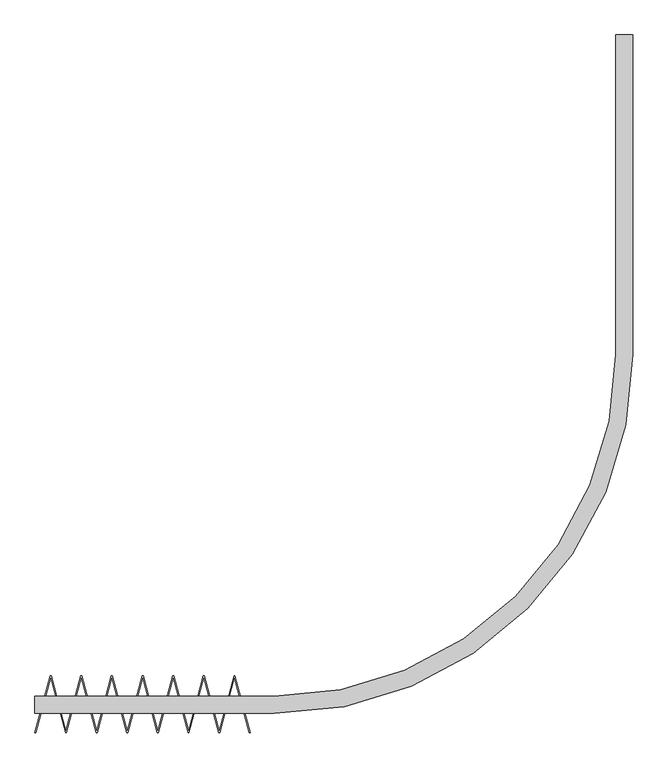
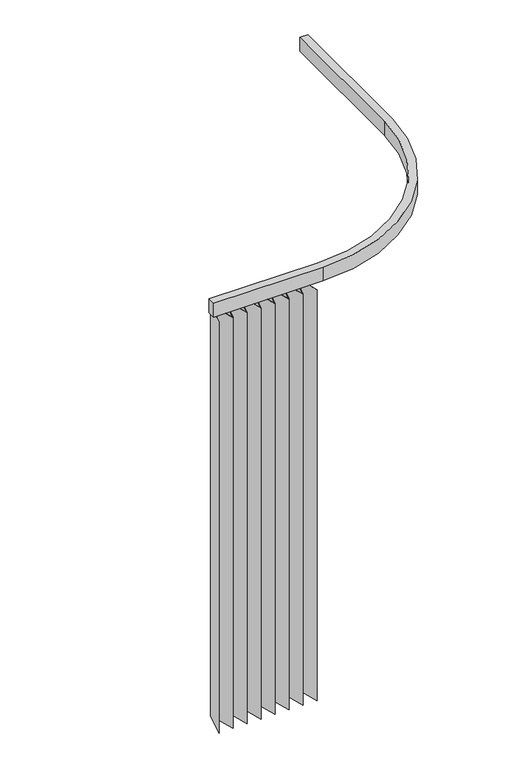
"""IFC4 building model written with IfcOpenShell, lengths in millimetres: furniture geometry, BIMHealth-Curtain_Bed-LOD2A-v1 : BIMHealth-Curtain_Bed-LOD2A-v1."""

from ifc_helpers import new_model, si_unit, point, frame, frame_2d, origin, place, context, project, spatial, polyline, circle_curve, trimmed, segment, composite_curve, outline, extrude, source, transform, mapped, element, save


def furniture_cd7ab82e(model_context):
    return source(origin(), model_context, "Body", "SweptSolid", [
        extrude(outline(composite_curve([segment(trimmed(circle_curve(frame_2d((560.0, 840.0)), 800.0), [point((560.0, 40.0))], [point((1360.0, 840.0))], True, "CARTESIAN"), True, "CONTINUOUS"), segment(polyline([(1360.0, 840.0), (1360.0, 1588.8426086), (1400.0, 1588.8426086), (1400.0, 840.0)]), True, "CONTINUOUS"), segment(trimmed(circle_curve(frame_2d((560.0, 840.0)), 840.0), [point((1400.0, 840.0))], [point((560.0, 0.0))], False, "CARTESIAN"), True, "CONTINUOUS"), segment(polyline([(560.0, 0.0), (0.0, 0.0), (0.0, 40.0), (560.0, 40.0)]), True, "CONTINUOUS")], self_intersect=False)), frame((0.0, 0.0, 2325.0), z_axis=(0.0, 0.0, 1.0), x_axis=(1.0, 0.0, 0.0)), (0.0, 0.0, 1.0), 75.0),
        extrude(outline(polyline([(35.8630189, 88.8426086), (37.9335712, 88.8426086), (72.761314, -41.1362967), (107.5890567, 88.8426086), (109.659609, 88.8426086), (144.4873517, -41.1362967), (179.3150944, 88.8426086), (181.3856468, 88.8426086), (216.2133895, -41.1362967), (251.0411322, 88.8426086), (253.1116846, 88.8426086), (287.9394273, -41.1362967), (322.76717, 88.8426086), (324.8377223, 88.8426086), (359.665465, -41.1362967), (394.4932078, 88.8426086), (396.5637601, 88.8426086), (431.3915028, -41.1362967), (466.2192455, 88.8426086), (468.2897979, 88.8426086), (504.1528168, -45.0), (502.2209651, -45.5176381), (467.2545217, 84.9789053), (432.426779, -45.0), (430.3562266, -45.0), (395.5284839, 84.9789053), (360.7007412, -45.0), (358.6301889, -45.0), (323.8024462, 84.9789053), (288.9747035, -45.0), (286.9041511, -45.0), (252.0764084, 84.9789053), (217.2486657, -45.0), (215.1781133, -45.0), (180.3503706, 84.9789053), (145.5226279, -45.0), (143.4520755, -45.0), (108.6243328, 84.9789053), (73.7965901, -45.0), (71.7260378, -45.0), (36.8982951, 84.9789053), (1.9318517, -45.5176381), (0.0, -45.0), (35.8630189, 88.8426086)])), frame((0.0, 0.0, 100.0), z_axis=(0.0, 0.0, 1.0), x_axis=(1.0, 0.0, 0.0)), (0.0, 0.0, 1.0), 2225.0),
    ])


if __name__ == "__main__":
    model = new_model("IFC4")
    model_context = context("Model", 3, world=origin())
    ifc_project = project(units=[si_unit("LENGTHUNIT", "METRE", prefix="MILLI")], contexts=[model_context])
    site = spatial("IfcSite", under=ifc_project)
    building = spatial("IfcBuilding", under=site)
    placement = place(None, origin())
    furniture_shape = furniture_cd7ab82e(model_context)
    element("IfcFurniture", 1, ObjectType="BIMHealth-Curtain_Bed-LOD2A-v1 : BIMHealth-Curtain_Bed-LOD2A-v1", at=placement, inside=building, context=model_context, shape_type="MappedRepresentation", body=[
        mapped(furniture_shape, transform((0.0, 0.0, 0.0), x_axis=(1.0, 0.0, 0.0), y_axis=(0.0, 1.0, 0.0), z_axis=(0.0, 0.0, 1.0))),
    ])
    save(model, "model.ifc")
